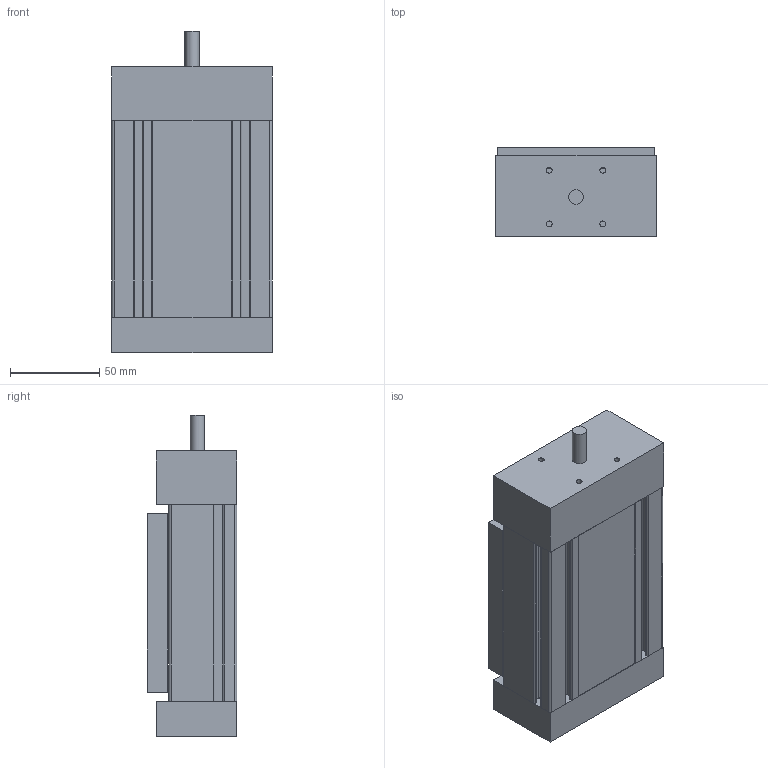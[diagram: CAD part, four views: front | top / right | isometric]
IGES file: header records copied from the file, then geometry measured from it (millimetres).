
Global section: file name: No Iges File Name specified; native system: Autodesk Inventor 2012; preprocessor: AutoDesk Inventor Iges Exporter R2012; author: disegnatore3; date: 20160909.091344; units: millimetre
Bounding box: 90 x 50 x 180 mm (x, y, z)
Volume: 653343.3 mm3; surface area: 96171.7 mm2
Topology: 4 solids, 4 shells, 110 faces, 273 edges, 182 vertices
Faces by surface type: plane 61, revolution 28, cylinder 21
Full cylindrical faces by diameter (mm): 8 x1
